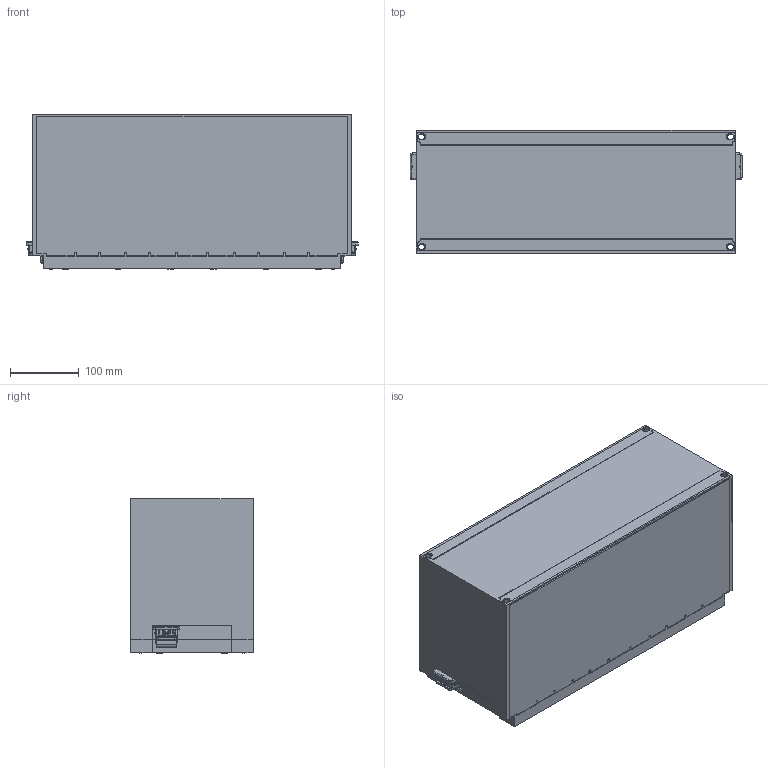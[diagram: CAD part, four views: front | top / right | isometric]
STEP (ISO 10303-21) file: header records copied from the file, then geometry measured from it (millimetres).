
FILE_DESCRIPTION((''),'2;1');
FILE_NAME('BREP_WITH_VOIDS_39','2018-10-09T',('Eco Power'),(''),'PRO/ENGINEER BY PARAMETRIC TECHNOLOGY CORPORATION, 2013050','PRO/ENGINEER BY PARAMETRIC TECHNOLOGY CORPORATION, 2013050','');
FILE_SCHEMA(('CONFIG_CONTROL_DESIGN'));
Length unit declared in the file: millimetre
Products named in the file (1): BREP_WITH_VOIDS_39
Bounding box: 482.1 x 178.6 x 225.05 mm (x, y, z)
Volume: 18294660.3 mm3; surface area: 509096.5 mm2
Topology: 1 solids, 7 shells, 1191 faces, 3304 edges, 2159 vertices
Faces by surface type: plane 576, cylinder 463, torus 92, cone 36, bspline 24
Entity records: 39838 total; most frequent: CARTESIAN_POINT 8645, DIRECTION 6617, ORIENTED_EDGE 6592, EDGE_CURVE 3296, AXIS2_PLACEMENT_3D 2334, VERTEX_POINT 2159, VECTOR 1949, LINE 1949
